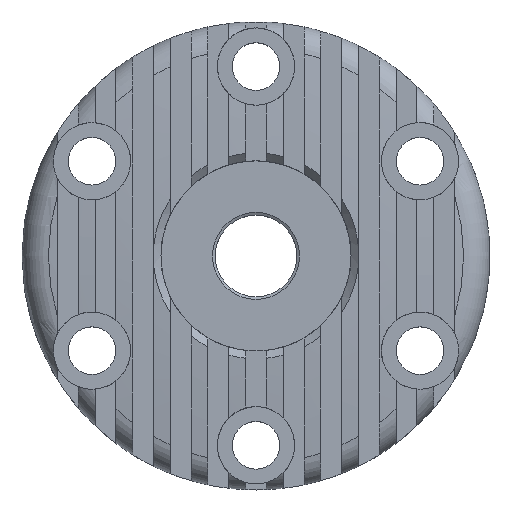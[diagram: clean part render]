
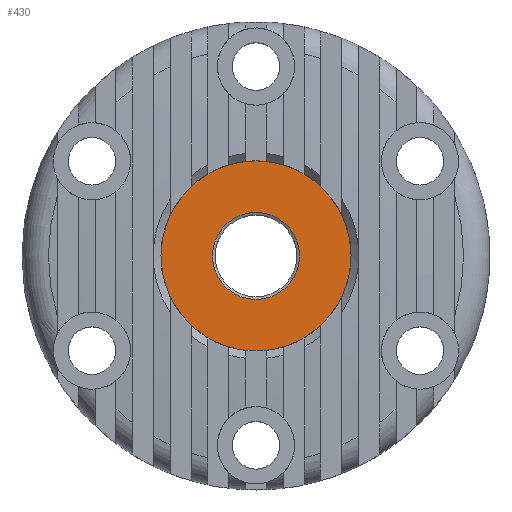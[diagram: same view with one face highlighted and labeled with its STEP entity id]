
A CAD part, top view. The second image highlights one B-rep face of the part: STEP entity #430.
In plain terms, the highlighted planar face has unit normal (0, 0, 1).
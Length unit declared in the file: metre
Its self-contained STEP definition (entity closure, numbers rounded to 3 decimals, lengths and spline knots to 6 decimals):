
#430 = ADVANCED_FACE( '', ( #956, #957 ), #958, .F. );
#956 = FACE_BOUND( '', #1566, .T. );
#957 = FACE_OUTER_BOUND( '', #1567, .T. );
#958 = PLANE( '', #1568 );
#1566 = EDGE_LOOP( '', ( #2797 ) );
#1567 = EDGE_LOOP( '', ( #2798 ) );
#1568 = AXIS2_PLACEMENT_3D( '', #2799, #2800, #2801 );
#2797 = ORIENTED_EDGE( '', *, *, #3722, .F. );
#2798 = ORIENTED_EDGE( '', *, *, #3890, .F. );
#2799 = CARTESIAN_POINT( '', ( -0.007685, 0., 0.004 ) );
#2800 = DIRECTION( '', ( 0., 0., -1. ) );
#2801 = DIRECTION( '', ( -1., 0., 0. ) );
#3722 = EDGE_CURVE( '', #4545, #4545, #4546, .F. );
#3890 = EDGE_CURVE( '', #4817, #4817, #4818, .T. );
#4545 = VERTEX_POINT( '', #6026 );
#4546 = CIRCLE( '', #6027, 0.002929 );
#4817 = VERTEX_POINT( '', #6569 );
#4818 = CIRCLE( '', #6570, 0.0064 );
#6026 = CARTESIAN_POINT( '', ( -0.002929, 0., 0.004 ) );
#6027 = AXIS2_PLACEMENT_3D( '', #7514, #7515, #7516 );
#6569 = CARTESIAN_POINT( '', ( -0.0064, 0., 0.004 ) );
#6570 = AXIS2_PLACEMENT_3D( '', #7723, #7724, #7725 );
#7514 = CARTESIAN_POINT( '', ( 0., 0., 0.004 ) );
#7515 = DIRECTION( '', ( 0., 0., -1. ) );
#7516 = DIRECTION( '', ( -1., 0., 0. ) );
#7723 = CARTESIAN_POINT( '', ( 0., 0., 0.004 ) );
#7724 = DIRECTION( '', ( 0., 0., -1. ) );
#7725 = DIRECTION( '', ( -1., 0., 0. ) );
